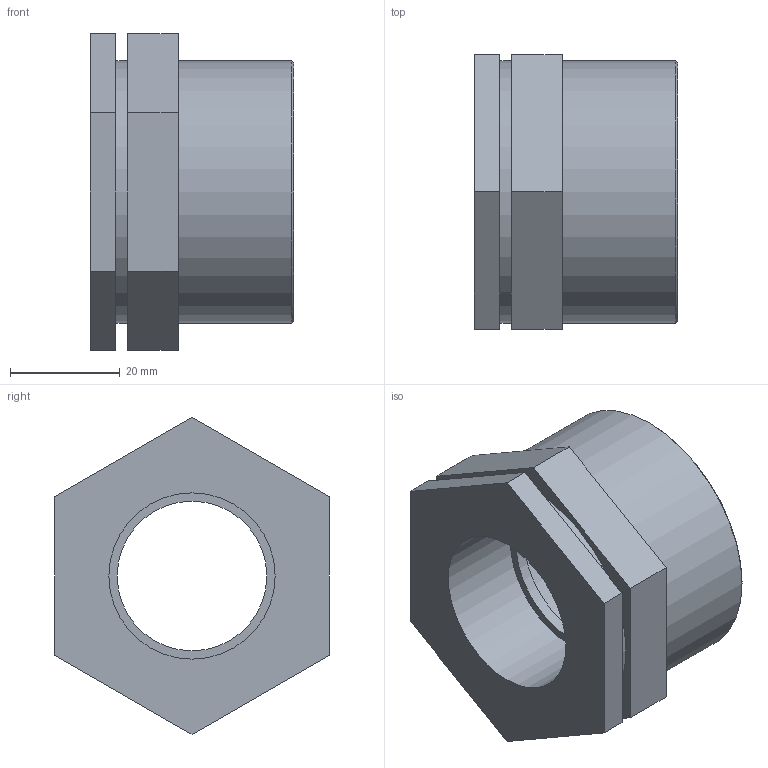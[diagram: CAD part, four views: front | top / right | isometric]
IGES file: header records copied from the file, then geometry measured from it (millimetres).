
Global section: file name: 050207015010_0502070150100A.ipt; native system: Autodesk Inventor 2015; preprocessor: unknown; author: KIM; date: 20170618.093133; units: millimetre
Bounding box: 37 x 50 x 57.73 mm (x, y, z)
Volume: 28856.8 mm3; surface area: 15254.8 mm2
Topology: 1 solids, 1 shells, 28 faces, 66 edges, 46 vertices
Faces by surface type: plane 20, revolution 4, cylinder 3, cone 1
Full cylindrical faces by diameter (mm): 36.349 x1, 47.803 x2
